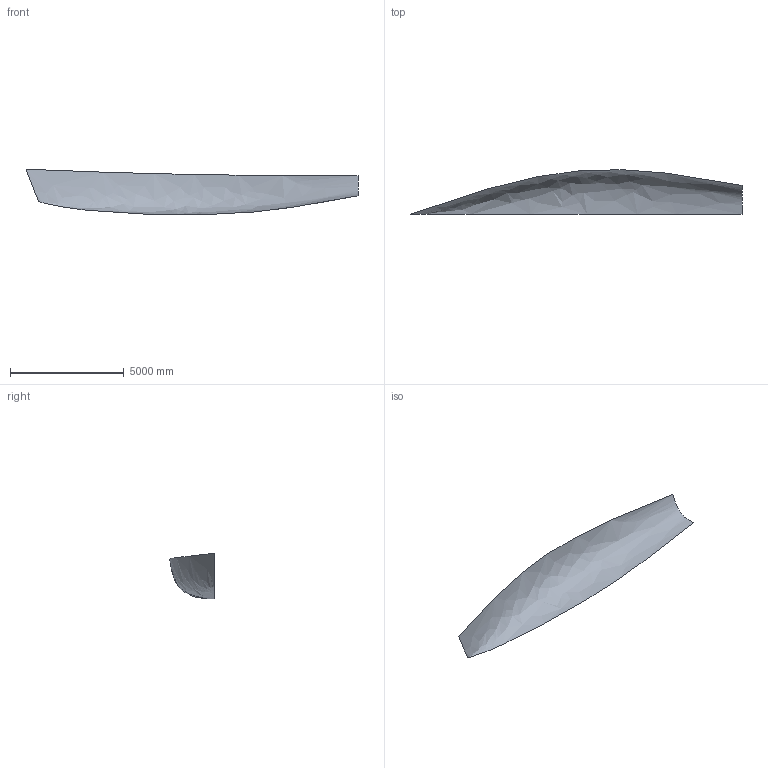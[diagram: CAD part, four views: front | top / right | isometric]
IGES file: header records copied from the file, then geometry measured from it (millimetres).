
Start section: DATA transfer to IGES file format           James R Teeters           17 Goodwin Street           Newport, RI 02840
Global section: file name: UssaM5.igs; author: Jim Teeters; organization: Newport RI; date: 951128.120000; units: metre
Bounding box: 14612.59 x 1959.87 x 2002.48 mm (x, y, z)
Surface area: 35773636.4 mm2 (no closed solid volume)
Topology: 0 solids, 0 shells, 1 faces, 4 edges, 4 vertices
Faces by surface type: bspline 1
